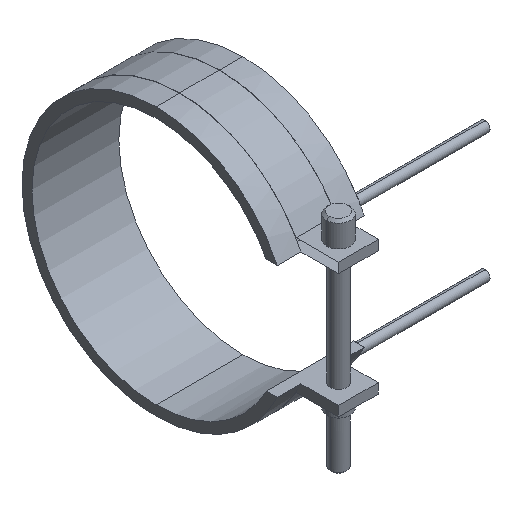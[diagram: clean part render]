
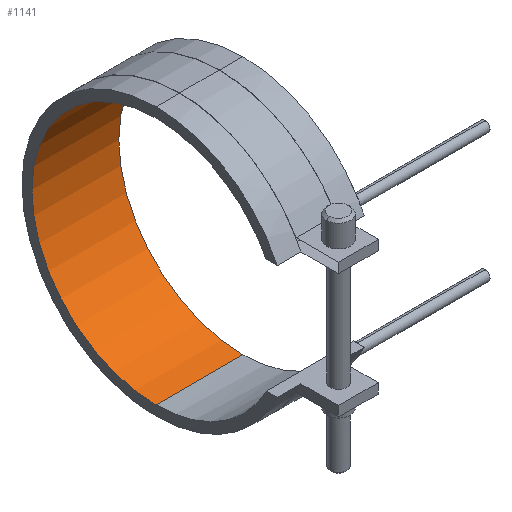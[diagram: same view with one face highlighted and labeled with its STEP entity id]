
A CAD part, isometric view. The second image highlights one B-rep face of the part: STEP entity #1141.
In plain terms, the highlighted cylindrical face has radius 50 mm (diameter 100 mm), a partial arc.
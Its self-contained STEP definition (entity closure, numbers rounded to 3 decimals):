
#822=CARTESIAN_POINT('Vertex',(-17.5,0.,-50.)) ;
#829=CARTESIAN_POINT('Vertex',(17.5,0.,-50.)) ;
#832=CARTESIAN_POINT('Line Origine',(17.5,0.,-50.)) ;
#850=CARTESIAN_POINT('Axis2P3D Location',(-17.5,0.,0.)) ;
#854=CARTESIAN_POINT('Vertex',(-17.5,0.,50.)) ;
#911=CARTESIAN_POINT('Vertex',(17.5,0.,50.)) ;
#921=CARTESIAN_POINT('Line Origine',(17.5,0.,50.)) ;
#1012=CARTESIAN_POINT('Axis2P3D Location',(17.5,0.,0.)) ;
#1130=CARTESIAN_POINT('Axis2P3D Location',(17.5,0.,0.)) ;
#833=DIRECTION('Vector Direction',(1.,0.,0.)) ;
#851=DIRECTION('Axis2P3D Direction',(1.,0.,0.)) ;
#922=DIRECTION('Vector Direction',(1.,0.,0.)) ;
#1013=DIRECTION('Axis2P3D Direction',(1.,0.,0.)) ;
#1131=DIRECTION('Axis2P3D Direction',(1.,0.,-0.)) ;
#1132=DIRECTION('Axis2P3D XDirection',(0.,0.,-1.)) ;
#852=AXIS2_PLACEMENT_3D('Circle Axis2P3D',#850,#851,$) ;
#1014=AXIS2_PLACEMENT_3D('Circle Axis2P3D',#1012,#1013,$) ;
#1133=AXIS2_PLACEMENT_3D('Cylinder Axis2P3D',#1130,#1131,#1132) ;
#1136=ORIENTED_EDGE('',*,*,#1016,.T.) ;
#1137=ORIENTED_EDGE('',*,*,#925,.T.) ;
#1138=ORIENTED_EDGE('',*,*,#856,.F.) ;
#1139=ORIENTED_EDGE('',*,*,#836,.T.) ;
#834=VECTOR('Line Direction',#833,1.) ;
#923=VECTOR('Line Direction',#922,1.) ;
#1141=ADVANCED_FACE('14100035',(#1140),#1134,.F.) ;
#853=CIRCLE('generated circle',#852,50.) ;
#1015=CIRCLE('generated circle',#1014,50.) ;
#1134=CYLINDRICAL_SURFACE('generated cylinder',#1133,50.) ;
#836=EDGE_CURVE('',#823,#830,#835,.T.) ;
#856=EDGE_CURVE('',#823,#855,#853,.T.) ;
#925=EDGE_CURVE('',#912,#855,#924,.F.) ;
#1016=EDGE_CURVE('',#830,#912,#1015,.T.) ;
#1135=EDGE_LOOP('',(#1136,#1137,#1138,#1139)) ;
#1140=FACE_OUTER_BOUND('',#1135,.T.) ;
#835=LINE('Line',#832,#834) ;
#924=LINE('Line',#921,#923) ;
#823=VERTEX_POINT('',#822) ;
#830=VERTEX_POINT('',#829) ;
#855=VERTEX_POINT('',#854) ;
#912=VERTEX_POINT('',#911) ;
